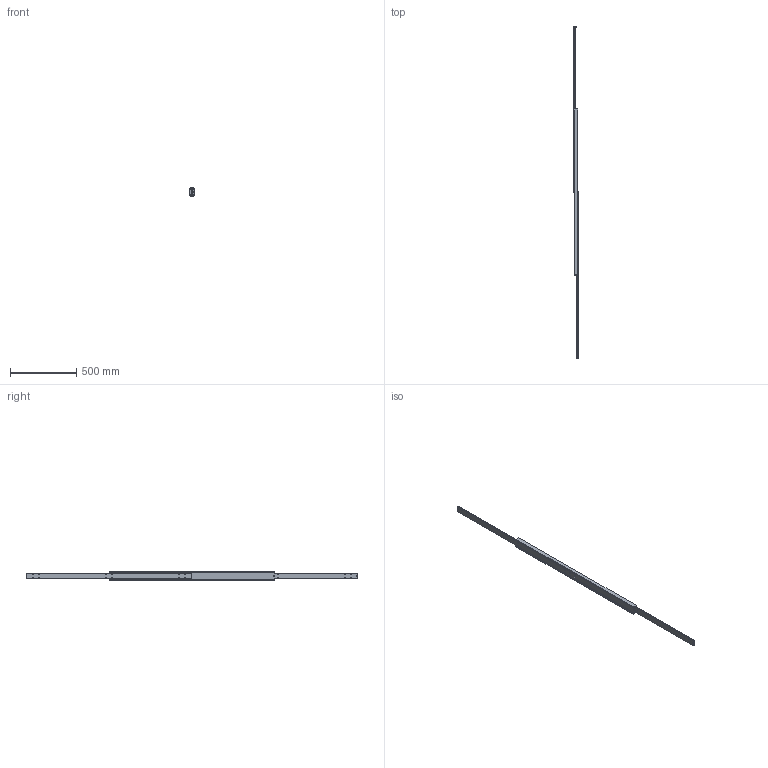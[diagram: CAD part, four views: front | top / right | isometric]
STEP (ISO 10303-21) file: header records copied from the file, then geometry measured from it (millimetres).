
FILE_DESCRIPTION(/* description */ (''),/* implementation_level */ '2;1');
FILE_NAME(/* name */ 'D:\Zeichnungen Schienen Komplett\MX-DTP70\MX-DTP70.125\MX-DTP70.125_ausgefahren.step',/* time_stamp */ '2022-03-07T09:21:21+01:00',/* author */ ('zmile'),/* organization */ (''),/* preprocessor_version */ 'ST-DEVELOPER v16.13',/* originating_system */ 'AutoCAD Mechanical',/* authorisation */ '');
FILE_SCHEMA (('AUTOMOTIVE_DESIGN { 1 0 10303 214 3 1 1 }'));
Length unit declared in the file: millimetre
Products named in the file (1): Product
Bounding box: 32 x 2500 x 70 mm (x, y, z)
Volume: 2136044.9 mm3; surface area: 776659.2 mm2
Topology: 81 solids, 83 shells, 210 faces, 732 edges, 536 vertices
Faces by surface type: plane 82, sphere 76, cylinder 38, bspline 8, torus 6
Full cylindrical faces by diameter (mm): 8 x24, 13 x2
Entity records: 14519 total; most frequent: CARTESIAN_POINT 8411, DIRECTION 1250, ORIENTED_EDGE 908, EDGE_CURVE 546, VERTEX_POINT 534, AXIS2_PLACEMENT_3D 519, EDGE_LOOP 446, CIRCLE 312
